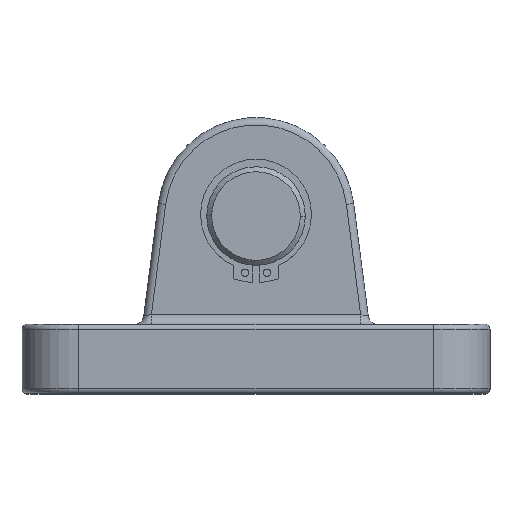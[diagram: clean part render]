
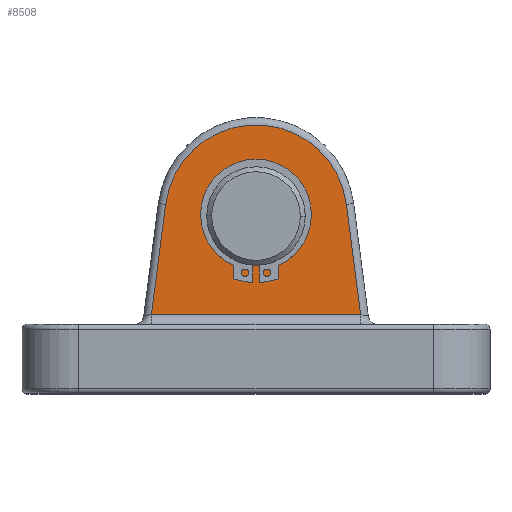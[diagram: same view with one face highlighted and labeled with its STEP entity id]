
A CAD part, top view. The second image highlights one B-rep face of the part: STEP entity #8508.
In plain terms, the highlighted planar face has unit normal (0, 0, 1).
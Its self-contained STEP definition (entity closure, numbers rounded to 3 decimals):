
#273 = ORIENTED_EDGE ( 'NONE', *, *, #4461, .T. ) ;
#1689 = CARTESIAN_POINT ( 'NONE',  ( 18.348, 38.364, 33. ) ) ;
#1699 = VERTEX_POINT ( 'NONE', #4363 ) ;
#2152 = CARTESIAN_POINT ( 'NONE',  ( -21.23, 16., 33. ) ) ;
#2287 = DIRECTION ( 'NONE',  ( 0., 0., 1. ) ) ;
#2853 = EDGE_CURVE ( 'NONE', #3160, #6752, #11981, .T. ) ;
#2914 = FACE_OUTER_BOUND ( 'NONE', #8982, .T. ) ;
#3160 = VERTEX_POINT ( 'NONE', #9950 ) ;
#3350 = CARTESIAN_POINT ( 'NONE',  ( 21.488, 16., 33. ) ) ;
#3622 = CARTESIAN_POINT ( 'NONE',  ( -21.512, 13.808, 33. ) ) ;
#4304 = AXIS2_PLACEMENT_3D ( 'NONE', #9577, #2287, #10795 ) ;
#4363 = CARTESIAN_POINT ( 'NONE',  ( 21.23, 16., 33. ) ) ;
#4461 = EDGE_CURVE ( 'NONE', #5133, #3160, #7748, .T. ) ;
#5133 = VERTEX_POINT ( 'NONE', #12769 ) ;
#5555 = ORIENTED_EDGE ( 'NONE', *, *, #5666, .T. ) ;
#5666 = EDGE_CURVE ( 'NONE', #6752, #1699, #14654, .T. ) ;
#5835 = PLANE ( 'NONE',  #4304 ) ;
#6367 = DIRECTION ( 'NONE',  ( 1., 0., 0. ) ) ;
#6752 = VERTEX_POINT ( 'NONE', #2152 ) ;
#7748 = CIRCLE ( 'NONE', #15293, 18.5 ) ;
#8508 = ADVANCED_FACE ( 'NONE', ( #2914 ), #5835, .T. ) ;
#8735 = VECTOR ( 'NONE', #14052, 1000. ) ;
#8982 = EDGE_LOOP ( 'NONE', ( #14426, #5555, #9197, #273 ) ) ;
#9197 = ORIENTED_EDGE ( 'NONE', *, *, #13535, .T. ) ;
#9577 = CARTESIAN_POINT ( 'NONE',  ( 0., 36., 33. ) ) ;
#9950 = CARTESIAN_POINT ( 'NONE',  ( -18.348, 38.364, 33. ) ) ;
#9987 = DIRECTION ( 'NONE',  ( 0., 0., 1. ) ) ;
#10043 = CARTESIAN_POINT ( 'NONE',  ( 0., 36., 33. ) ) ;
#10689 = DIRECTION ( 'NONE',  ( 1., 0., 0. ) ) ;
#10795 = DIRECTION ( 'NONE',  ( 1., 0., 0. ) ) ;
#10808 = VECTOR ( 'NONE', #12610, 1000. ) ;
#11981 = LINE ( 'NONE', #3622, #8735 ) ;
#12610 = DIRECTION ( 'NONE',  ( -0.128, 0.992, 0. ) ) ;
#12769 = CARTESIAN_POINT ( 'NONE',  ( 18.348, 38.364, 33. ) ) ;
#13535 = EDGE_CURVE ( 'NONE', #1699, #5133, #13950, .T. ) ;
#13950 = LINE ( 'NONE', #1689, #10808 ) ;
#14052 = DIRECTION ( 'NONE',  ( -0.128, -0.992, 0. ) ) ;
#14302 = VECTOR ( 'NONE', #10689, 1000. ) ;
#14426 = ORIENTED_EDGE ( 'NONE', *, *, #2853, .T. ) ;
#14654 = LINE ( 'NONE', #3350, #14302 ) ;
#15293 = AXIS2_PLACEMENT_3D ( 'NONE', #10043, #9987, #6367 ) ;
